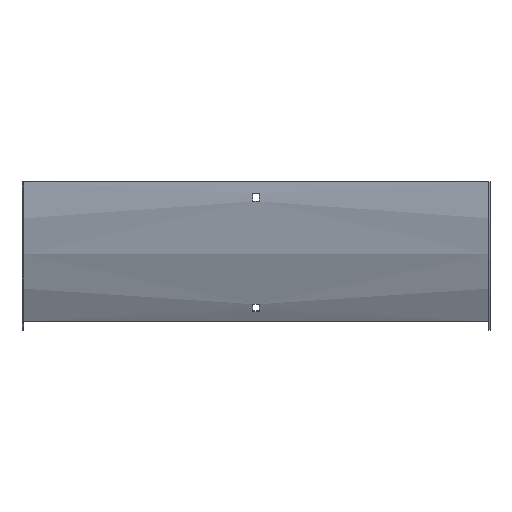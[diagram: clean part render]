
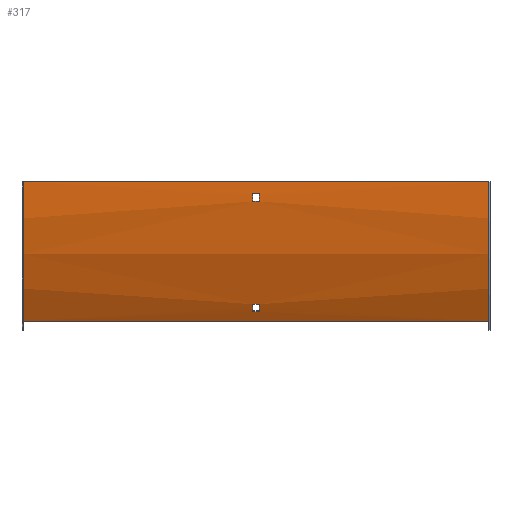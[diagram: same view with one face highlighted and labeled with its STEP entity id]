
A CAD part, front view. The second image highlights one B-rep face of the part: STEP entity #317.
In plain terms, the highlighted cylindrical face has radius 300 mm (diameter 600 mm), a partial arc.
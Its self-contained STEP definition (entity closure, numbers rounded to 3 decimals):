
#1 = CARTESIAN_POINT ( 'NONE',  ( 250., 38.692, -150. ) ) ;
#4 = DIRECTION ( 'NONE',  ( -1., 0., 0. ) ) ;
#7 = ORIENTED_EDGE ( 'NONE', *, *, #113, .T. ) ;
#10 = CYLINDRICAL_SURFACE ( 'NONE', #465, 300. ) ;
#16 = CARTESIAN_POINT ( 'NONE',  ( 250., -1.5, 0. ) ) ;
#26 = ORIENTED_EDGE ( 'NONE', *, *, #153, .T. ) ;
#29 = CARTESIAN_POINT ( 'NONE',  ( 3.25, 298.5, 0. ) ) ;
#38 = VERTEX_POINT ( 'NONE', #534 ) ;
#39 = VECTOR ( 'NONE', #283, 1000. ) ;
#44 = EDGE_CURVE ( 'NONE', #509, #584, #594, .T. ) ;
#47 = EDGE_CURVE ( 'NONE', #481, #532, #354, .T. ) ;
#51 = AXIS2_PLACEMENT_3D ( 'NONE', #386, #144, #512 ) ;
#52 = DIRECTION ( 'NONE',  ( -1., 0., 0. ) ) ;
#54 = VECTOR ( 'NONE', #52, 1000. ) ;
#56 = ORIENTED_EDGE ( 'NONE', *, *, #205, .F. ) ;
#57 = CARTESIAN_POINT ( 'NONE',  ( 3.25, -0.764, -21. ) ) ;
#58 = LINE ( 'NONE', #16, #39 ) ;
#68 = VECTOR ( 'NONE', #271, 1000. ) ;
#71 = ORIENTED_EDGE ( 'NONE', *, *, #508, .F. ) ;
#76 = ORIENTED_EDGE ( 'NONE', *, *, #500, .F. ) ;
#90 = CARTESIAN_POINT ( 'NONE',  ( 251.5, -0.764, -21. ) ) ;
#105 = DIRECTION ( 'NONE',  ( -1., 0., 0. ) ) ;
#108 = DIRECTION ( 'NONE',  ( -1., 0., 0. ) ) ;
#113 = EDGE_CURVE ( 'NONE', #584, #233, #160, .T. ) ;
#121 = VECTOR ( 'NONE', #105, 1000. ) ;
#123 = VERTEX_POINT ( 'NONE', #601 ) ;
#127 = ORIENTED_EDGE ( 'NONE', *, *, #480, .T. ) ;
#130 = ORIENTED_EDGE ( 'NONE', *, *, #556, .T. ) ;
#135 = FACE_BOUND ( 'NONE', #439, .T. ) ;
#136 = DIRECTION ( 'NONE',  ( -1., 0., 0. ) ) ;
#141 = VERTEX_POINT ( 'NONE', #578 ) ;
#143 = CARTESIAN_POINT ( 'NONE',  ( 250., 298.5, 0. ) ) ;
#144 = DIRECTION ( 'NONE',  ( -1., 0., 0. ) ) ;
#147 = ORIENTED_EDGE ( 'NONE', *, *, #472, .T. ) ;
#153 = EDGE_CURVE ( 'NONE', #357, #380, #58, .T. ) ;
#160 = CIRCLE ( 'NONE', #364, 300. ) ;
#162 = DIRECTION ( 'NONE',  ( 1., 0., 0. ) ) ;
#167 = CARTESIAN_POINT ( 'NONE',  ( 251.5, 32.9, -139.488 ) ) ;
#171 = AXIS2_PLACEMENT_3D ( 'NONE', #29, #486, #208 ) ;
#179 = DIRECTION ( 'NONE',  ( 1., 0., 0. ) ) ;
#181 = FACE_BOUND ( 'NONE', #238, .T. ) ;
#193 = AXIS2_PLACEMENT_3D ( 'NONE', #143, #108, #291 ) ;
#205 = EDGE_CURVE ( 'NONE', #527, #141, #231, .T. ) ;
#208 = DIRECTION ( 'NONE',  ( 0., 0., 1. ) ) ;
#224 = LINE ( 'NONE', #1, #121 ) ;
#227 = DIRECTION ( 'NONE',  ( -1., 0., 0. ) ) ;
#228 = CARTESIAN_POINT ( 'NONE',  ( 251.5, -1.26, -12. ) ) ;
#231 = CIRCLE ( 'NONE', #51, 300. ) ;
#233 = VERTEX_POINT ( 'NONE', #346 ) ;
#238 = EDGE_LOOP ( 'NONE', ( #579, #483, #56, #76 ) ) ;
#254 = ORIENTED_EDGE ( 'NONE', *, *, #44, .T. ) ;
#271 = DIRECTION ( 'NONE',  ( 1., 0., 0. ) ) ;
#278 = AXIS2_PLACEMENT_3D ( 'NONE', #464, #517, #513 ) ;
#283 = DIRECTION ( 'NONE',  ( -1., 0., 0. ) ) ;
#287 = CARTESIAN_POINT ( 'NONE',  ( 3.25, 32.9, -139.488 ) ) ;
#291 = DIRECTION ( 'NONE',  ( 0., 0., 1. ) ) ;
#296 = EDGE_CURVE ( 'NONE', #141, #481, #560, .T. ) ;
#317 = ADVANCED_FACE ( 'NONE', ( #181, #385, #135 ), #10, .T. ) ;
#321 = AXIS2_PLACEMENT_3D ( 'NONE', #604, #179, #452 ) ;
#326 = CARTESIAN_POINT ( 'NONE',  ( 251.5, 298.5, 0. ) ) ;
#328 = CARTESIAN_POINT ( 'NONE',  ( -3.25, 32.9, -139.488 ) ) ;
#329 = DIRECTION ( 'NONE',  ( 0., 0., 1. ) ) ;
#342 = CARTESIAN_POINT ( 'NONE',  ( 250., -1.5, 0. ) ) ;
#346 = CARTESIAN_POINT ( 'NONE',  ( -3.25, 28.83, -131.446 ) ) ;
#349 = ORIENTED_EDGE ( 'NONE', *, *, #600, .F. ) ;
#351 = EDGE_LOOP ( 'NONE', ( #349, #71, #130, #26 ) ) ;
#352 = CARTESIAN_POINT ( 'NONE',  ( -3.25, -1.26, -12. ) ) ;
#354 = CIRCLE ( 'NONE', #321, 300. ) ;
#357 = VERTEX_POINT ( 'NONE', #342 ) ;
#364 = AXIS2_PLACEMENT_3D ( 'NONE', #414, #4, #368 ) ;
#368 = DIRECTION ( 'NONE',  ( 0., 0., -1. ) ) ;
#372 = CIRCLE ( 'NONE', #171, 300. ) ;
#378 = CIRCLE ( 'NONE', #193, 300. ) ;
#380 = VERTEX_POINT ( 'NONE', #482 ) ;
#385 = FACE_OUTER_BOUND ( 'NONE', #351, .T. ) ;
#386 = CARTESIAN_POINT ( 'NONE',  ( 3.25, 298.5, 0. ) ) ;
#396 = LINE ( 'NONE', #588, #598 ) ;
#414 = CARTESIAN_POINT ( 'NONE',  ( -3.25, 298.5, 0. ) ) ;
#425 = CARTESIAN_POINT ( 'NONE',  ( -3.25, -0.764, -21. ) ) ;
#438 = CIRCLE ( 'NONE', #278, 300. ) ;
#439 = EDGE_LOOP ( 'NONE', ( #254, #7, #127, #147 ) ) ;
#452 = DIRECTION ( 'NONE',  ( 0., 0., 1. ) ) ;
#464 = CARTESIAN_POINT ( 'NONE',  ( -250., 298.5, 0. ) ) ;
#465 = AXIS2_PLACEMENT_3D ( 'NONE', #326, #136, #329 ) ;
#472 = EDGE_CURVE ( 'NONE', #38, #509, #372, .T. ) ;
#480 = EDGE_CURVE ( 'NONE', #233, #38, #396, .T. ) ;
#481 = VERTEX_POINT ( 'NONE', #352 ) ;
#482 = CARTESIAN_POINT ( 'NONE',  ( -250., -1.5, 0. ) ) ;
#483 = ORIENTED_EDGE ( 'NONE', *, *, #296, .F. ) ;
#486 = DIRECTION ( 'NONE',  ( 1., 0., 0. ) ) ;
#500 = EDGE_CURVE ( 'NONE', #532, #527, #569, .T. ) ;
#508 = EDGE_CURVE ( 'NONE', #519, #123, #224, .T. ) ;
#509 = VERTEX_POINT ( 'NONE', #287 ) ;
#511 = CARTESIAN_POINT ( 'NONE',  ( 250., 38.692, -150. ) ) ;
#512 = DIRECTION ( 'NONE',  ( 0., 0., -1. ) ) ;
#513 = DIRECTION ( 'NONE',  ( 0., 0., 1. ) ) ;
#517 = DIRECTION ( 'NONE',  ( -1., 0., 0. ) ) ;
#519 = VERTEX_POINT ( 'NONE', #511 ) ;
#527 = VERTEX_POINT ( 'NONE', #57 ) ;
#532 = VERTEX_POINT ( 'NONE', #425 ) ;
#534 = CARTESIAN_POINT ( 'NONE',  ( 3.25, 28.83, -131.446 ) ) ;
#556 = EDGE_CURVE ( 'NONE', #519, #357, #378, .T. ) ;
#560 = LINE ( 'NONE', #228, #54 ) ;
#569 = LINE ( 'NONE', #90, #68 ) ;
#578 = CARTESIAN_POINT ( 'NONE',  ( 3.25, -1.26, -12. ) ) ;
#579 = ORIENTED_EDGE ( 'NONE', *, *, #47, .F. ) ;
#584 = VERTEX_POINT ( 'NONE', #328 ) ;
#588 = CARTESIAN_POINT ( 'NONE',  ( 251.5, 28.83, -131.446 ) ) ;
#594 = LINE ( 'NONE', #167, #599 ) ;
#598 = VECTOR ( 'NONE', #162, 1000. ) ;
#599 = VECTOR ( 'NONE', #227, 1000. ) ;
#600 = EDGE_CURVE ( 'NONE', #123, #380, #438, .T. ) ;
#601 = CARTESIAN_POINT ( 'NONE',  ( -250., 38.692, -150. ) ) ;
#604 = CARTESIAN_POINT ( 'NONE',  ( -3.25, 298.5, 0. ) ) ;
